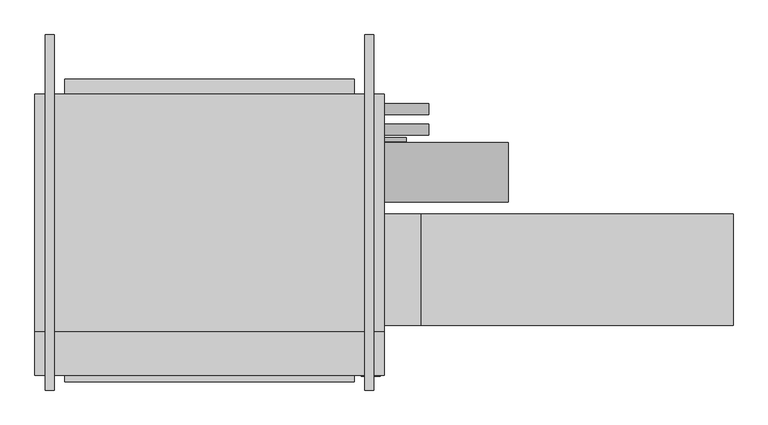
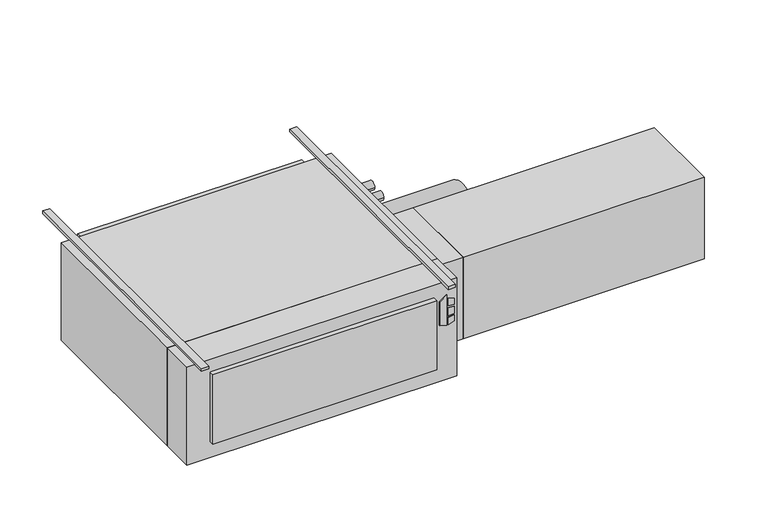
"""IFC4 building model written with IfcOpenShell, lengths in millimetres: proxy geometry."""

from ifc_helpers import new_model, si_unit, point, frame, frame_2d, origin, origin_with_axes, place, context, project, spatial, polyline, circle_curve, trimmed, segment, composite_curve, outline, extrude, source, transform, mapped, element, save


def mechanical_equipment_23481741(model_context):
    return source(origin(), model_context, "Body", "SweptSolid", [
        extrude(outline(polyline([(-193.2519297, 671.5868862), (-203.2, 703.7602728), (-61.0290756, 703.7602728), (-84.0510817, 671.5868862), (-193.2519297, 671.5868862)])), frame((0.0, -797.052, 0.0), z_axis=(0.0, 1.0, 0.0), x_axis=(0.0, 0.0, 1.0)), (0.0, 0.0, 1.0), 3.175),
        extrude(outline(polyline([(-114.2526443, 710.5186058), (-117.4550368, 736.6), (-88.2261958, 736.6), (-80.1617807, 710.5186058), (-114.2526443, 710.5186058)])), frame((0.0, -797.052, 0.0), z_axis=(0.0, 1.0, 0.0), x_axis=(0.0, 0.0, 1.0)), (0.0, 0.0, 1.0), 3.175),
        extrude(outline(polyline([(-166.1161712, 736.6), (-169.7816721, 710.5186058), (-203.2, 710.5186058), (-194.5657628, 736.6), (-166.1161712, 736.6)])), frame((0.0, -797.052, 0.0), z_axis=(0.0, 1.0, 0.0), x_axis=(0.0, 0.0, 1.0)), (0.0, 0.0, 1.0), 3.175),
        extrude(outline(polyline([(-126.8010097, 736.6), (-124.5191834, 710.5186058), (-160.4567319, 710.5186058), (-157.7154669, 736.6), (-126.8010097, 736.6)])), frame((0.0, -797.052, 0.0), z_axis=(0.0, 1.0, 0.0), x_axis=(0.0, 0.0, 1.0)), (0.0, 0.0, 1.0), 3.175),
        extrude(outline(polyline([(749.3, -793.877), (-444.5, -793.877), (-444.5, -644.525), (749.3, -644.525), (749.3, -793.877)])), frame((0.0, 0.0, -457.2), z_axis=(0.0, 0.0, 1.0), x_axis=(1.0, 0.0, 0.0)), (0.0, 0.0, 1.0), 457.2),
        extrude(outline(polyline([(647.7, -816.229), (-342.9, -816.229), (-342.9, -793.877), (647.7, -793.877), (647.7, -816.229)])), frame((0.0, 0.0, -381.0), z_axis=(0.0, 0.0, 1.0), x_axis=(1.0, 0.0, 0.0)), (0.0, 0.0, 1.0), 323.85),
        extrude(outline(polyline([(1943.1, -241.3), (1943.1, -622.3), (876.3, -622.3), (876.3, -241.3), (1943.1, -241.3)])), frame((0.0, 0.0, -431.8), z_axis=(0.0, 0.0, 1.0), x_axis=(1.0, 0.0, 0.0)), (0.0, 0.0, 1.0), 381.0),
        extrude(outline(polyline([(876.3, -241.3), (876.3, -622.3), (749.3, -622.3), (749.3, -241.3), (876.3, -241.3)])), frame((0.0, 0.0, -431.8), z_axis=(0.0, 0.0, 1.0), x_axis=(1.0, 0.0, 0.0)), (0.0, 0.0, 1.0), 381.0),
        extrude(outline(composite_curve([segment(trimmed(circle_curve(frame_2d((117.475, -171.45)), 19.05), [point((136.525, -171.45))], [point((98.425, -171.45))], False, "CARTESIAN"), True, "CONTINUOUS"), segment(trimmed(circle_curve(frame_2d((117.475, -171.45)), 19.05), [point((98.425, -171.45))], [point((136.525, -171.45))], False, "CARTESIAN"), True, "CONTINUOUS")], self_intersect=False)), frame((749.3, 0.0, 0.0), z_axis=(1.0, 0.0, 0.0), x_axis=(0.0, 1.0, 0.0)), (0.0, 0.0, 1.0), 152.4),
        extrude(outline(composite_curve([segment(trimmed(circle_curve(frame_2d((47.625, -177.8)), 19.05), [point((66.675, -177.8))], [point((28.575, -177.8))], False, "CARTESIAN"), True, "CONTINUOUS"), segment(trimmed(circle_curve(frame_2d((47.625, -177.8)), 19.05), [point((28.575, -177.8))], [point((66.675, -177.8))], False, "CARTESIAN"), True, "CONTINUOUS")], self_intersect=False)), frame((749.3, 0.0, 0.0), z_axis=(1.0, 0.0, 0.0), x_axis=(0.0, 1.0, 0.0)), (0.0, 0.0, 1.0), 152.4),
        extrude(outline(composite_curve([segment(trimmed(circle_curve(frame_2d((-98.4896516, -228.6360165)), 101.6), [point((3.1103484, -228.6360165))], [point((-200.0896516, -228.6360165))], False, "CARTESIAN"), True, "CONTINUOUS"), segment(trimmed(circle_curve(frame_2d((-98.4896516, -228.6360165)), 101.6), [point((-200.0896516, -228.6360165))], [point((3.1103484, -228.6360165))], False, "CARTESIAN"), True, "CONTINUOUS")], self_intersect=False)), frame((749.3, 0.0, 0.0), z_axis=(1.0, 0.0, 0.0), x_axis=(0.0, 1.0, 0.0)), (0.0, 0.0, 1.0), 425.45),
        extrude(outline(composite_curve([segment(trimmed(circle_curve(frame_2d((12.7, -409.575)), 6.35), [point((19.05, -409.575))], [point((6.35, -409.575))], False, "CARTESIAN"), True, "CONTINUOUS"), segment(trimmed(circle_curve(frame_2d((12.7, -409.575)), 6.35), [point((6.35, -409.575))], [point((19.05, -409.575))], False, "CARTESIAN"), True, "CONTINUOUS")], self_intersect=False)), frame((749.3, 0.0, 0.0), z_axis=(1.0, 0.0, 0.0), x_axis=(0.0, 1.0, 0.0)), (0.0, 0.0, 1.0), 76.2),
        extrude(outline(polyline([(749.3, 168.275), (749.3, -644.525), (-444.5, -644.525), (-444.5, 168.275), (749.3, 168.275)])), frame((0.0, 0.0, -457.2), z_axis=(0.0, 0.0, 1.0), x_axis=(1.0, 0.0, 0.0)), (0.0, 0.0, 1.0), 457.2),
        extrude(outline(polyline([(-342.9, 219.075), (647.7, 219.075), (647.7, 168.275), (-342.9, 168.275), (-342.9, 219.075)])), frame((0.0, 0.0, -381.0), z_axis=(0.0, 0.0, 1.0), x_axis=(1.0, 0.0, 0.0)), (0.0, 0.0, 1.0), 355.6),
        extrude(outline(polyline([(-377.825, 371.475), (-377.825, -844.677), (-409.575, -844.677), (-409.575, 371.475), (-377.825, 371.475)])), origin_with_axes(), (0.0, 0.0, 1.0), 12.7),
        extrude(outline(polyline([(714.375, 371.475), (714.375, -844.677), (682.625, -844.677), (682.625, 371.475), (714.375, 371.475)])), origin_with_axes(), (0.0, 0.0, 1.0), 12.7),
    ])


if __name__ == "__main__":
    model = new_model("IFC4")
    model_context = context("Model", 3, world=origin())
    ifc_project = project(units=[si_unit("LENGTHUNIT", "METRE", prefix="MILLI")], contexts=[model_context])
    site = spatial("IfcSite", under=ifc_project)
    building = spatial("IfcBuilding", under=site)
    placement = place(None, origin())
    mechanical_equipment_shape = mechanical_equipment_23481741(model_context)
    element("IfcBuildingElementProxy", 1, Name="High_Capacity_Horizontal_Cabinet_Fan_Coil_Unit_-_HTY_-_IEC_-_2 Pipe, Elec Heat_RH Side_2022 : Size 16 - 277v/60Hz/1Ph - 8/0 Coil 10.0kW - 8\" AirIn", ObjectType="High_Capacity_Horizontal_Cabinet_Fan_Coil_Unit_-_HTY_-_IEC_-_2 Pipe, Elec Heat_RH Side_2022 : Size 16 - 277v/60Hz/1Ph - 8/0 Coil 10.0kW - 8\" AirIn", at=placement, inside=building, context=model_context, shape_type="MappedRepresentation", body=[
        mapped(mechanical_equipment_shape, transform((0.0, 0.0, 0.0), x_axis=(1.0, 0.0, 0.0), y_axis=(0.0, 1.0, 0.0), z_axis=(0.0, 0.0, 1.0))),
    ])
    save(model, "model.ifc")
